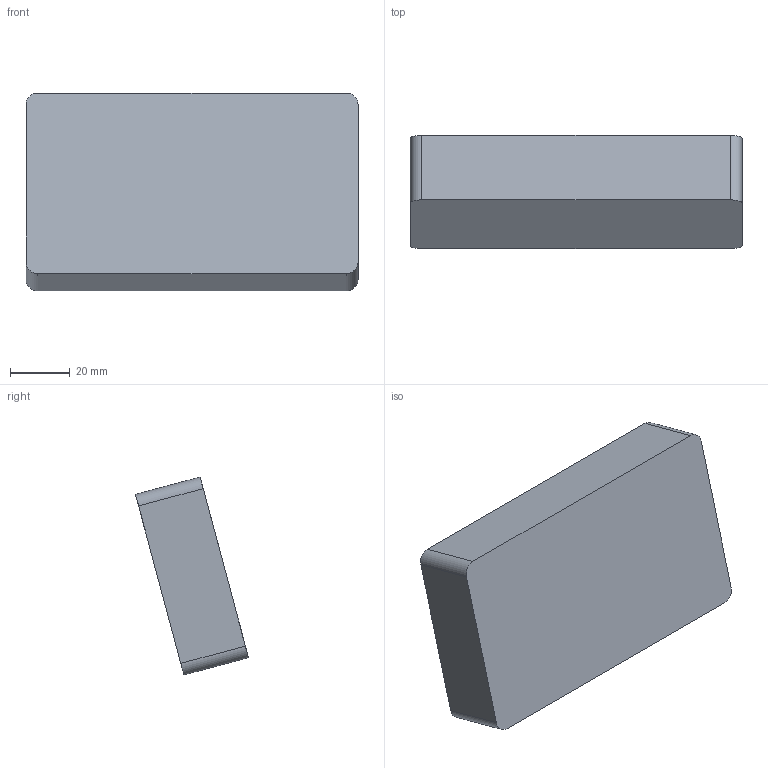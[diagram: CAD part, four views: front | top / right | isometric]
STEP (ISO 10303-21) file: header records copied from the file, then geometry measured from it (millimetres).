
FILE_DESCRIPTION(('Open CASCADE Model'),'2;1');
FILE_NAME('Open CASCADE Shape Model','2026-09-29T12:47:59',('Author'),( 'Open CASCADE'),'Open CASCADE STEP processor 7.9','Open CASCADE 7.9' ,'Unknown');
FILE_SCHEMA(('AUTOMOTIVE_DESIGN { 1 0 10303 214 1 1 1 1 }'));
Length unit declared in the file: millimetre
Products named in the file (1): Open CASCADE STEP translator 7.9 9
Bounding box: 111.2 x 37.84 x 66.26 mm (x, y, z)
Volume: 155621.4 mm3; surface area: 21527.2 mm2
Topology: 1 solids, 1 shells, 10 faces, 24 edges, 16 vertices
Faces by surface type: plane 6, cylinder 4
Entity records: 630 total; most frequent: CARTESIAN_POINT 123, DIRECTION 98, LINE 56, VECTOR 56, ORIENTED_EDGE 48, PCURVE 48, DEFINITIONAL_REPRESENTATION 48, EDGE_CURVE 24
